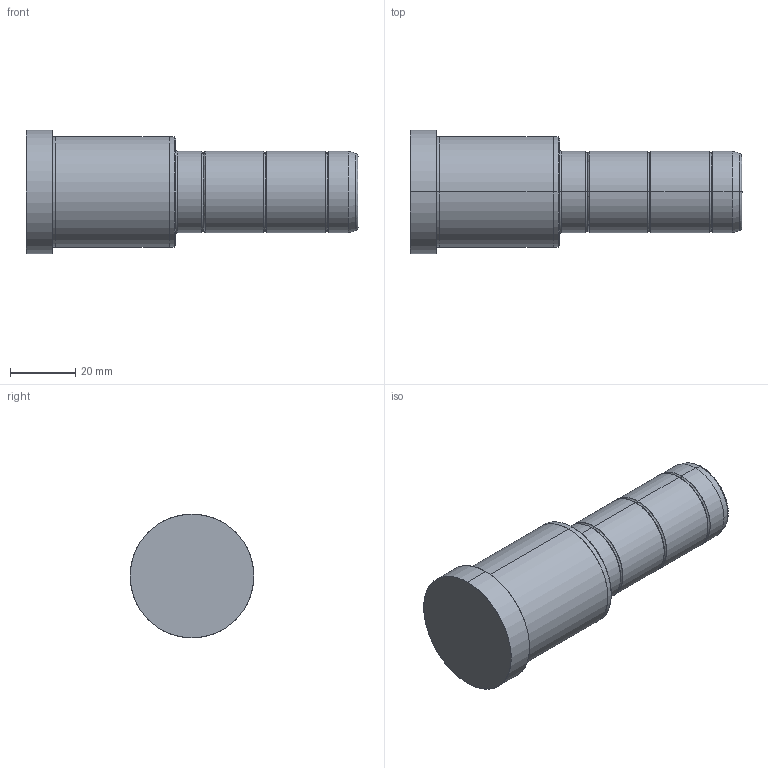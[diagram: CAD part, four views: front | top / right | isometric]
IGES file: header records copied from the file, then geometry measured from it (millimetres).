
Start section: SolidWorks IGES file using analytic representation for surfaces
Global section: file name: C:\Documents and Settings\kalite-mail\Desktop\IGS\D02\25\D02 - 25x46x56.IGS; native system: SolidWorks 2008; preprocessor: SolidWorks 2008; author: kalite-mail; date: 080616.172952; units: millimetre
Bounding box: 102 x 38 x 38 mm (x, y, z)
Surface area: 11684 mm2 (no closed solid volume)
Topology: 0 solids, 0 shells, 42 faces, 720 edges, 720 vertices
Faces by surface type: bspline 22, revolution 20
